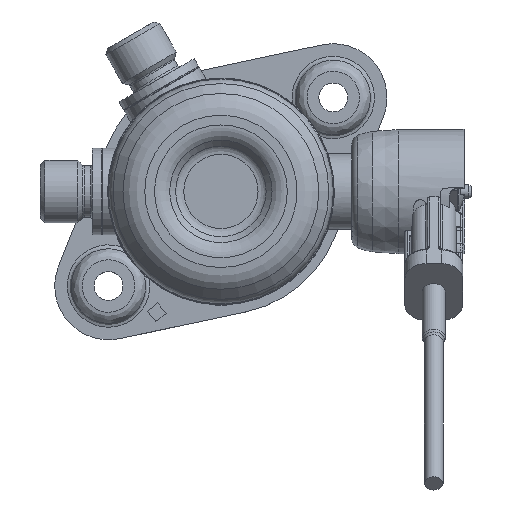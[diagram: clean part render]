
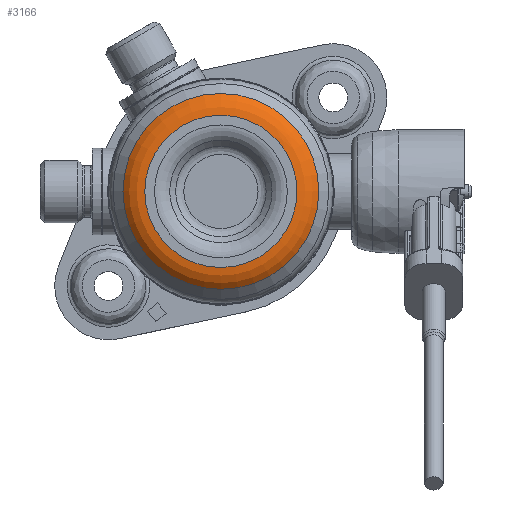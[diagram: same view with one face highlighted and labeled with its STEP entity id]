
A CAD part, top view. The second image highlights one B-rep face of the part: STEP entity #3166.
In plain terms, the highlighted toroidal (fillet/blend) face has major radius 17.125 mm and minor radius 6.5 mm.
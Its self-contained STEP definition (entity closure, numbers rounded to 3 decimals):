
#971=TOROIDAL_SURFACE('',#13355,17.125,6.5);
#3166=ADVANCED_FACE('',(#4185,#4186),#971,.T.);
#4185=FACE_BOUND('',#5166,.T.);
#4186=FACE_BOUND('',#5167,.T.);
#5166=EDGE_LOOP('',(#7603));
#5167=EDGE_LOOP('',(#7604));
#7603=ORIENTED_EDGE('',*,*,#10972,.T.);
#7604=ORIENTED_EDGE('',*,*,#11117,.F.);
#9570=VERTEX_POINT('',#21654);
#9655=VERTEX_POINT('',#22759);
#10972=EDGE_CURVE('',#9570,#9570,#12156,.T.);
#11117=EDGE_CURVE('',#9655,#9655,#12181,.T.);
#12156=CIRCLE('',#13270,17.125);
#12181=CIRCLE('',#13354,22.031);
#13270=AXIS2_PLACEMENT_3D('',#21653,#15860,#15861);
#13354=AXIS2_PLACEMENT_3D('',#22758,#16072,#16073);
#13355=AXIS2_PLACEMENT_3D('',#22760,#16074,#16075);
#15860=DIRECTION('',(0.,0.,-1.));
#15861=DIRECTION('',(0.766,0.643,0.));
#16072=DIRECTION('',(0.,0.,-1.));
#16073=DIRECTION('',(0.766,0.643,0.));
#16074=DIRECTION('',(0.,0.,-1.));
#16075=DIRECTION('',(0.766,0.643,0.));
#21653=CARTESIAN_POINT('',(0.,0.,
54.5));
#21654=CARTESIAN_POINT('',(13.118,11.008,54.5));
#22758=CARTESIAN_POINT('',(0.,0.,
52.264));
#22759=CARTESIAN_POINT('',(16.876,14.161,52.264));
#22760=CARTESIAN_POINT('',(0.,0.,48.));
